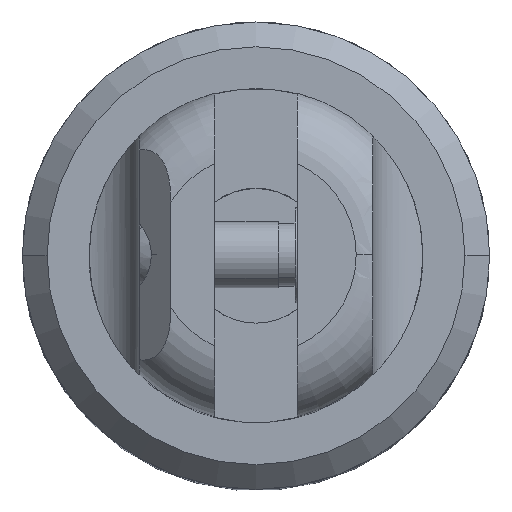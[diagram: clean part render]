
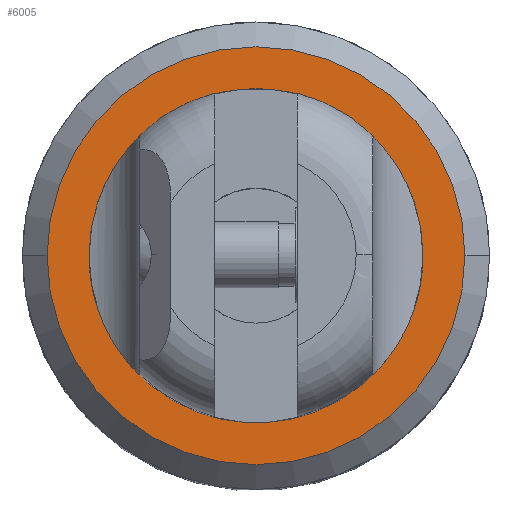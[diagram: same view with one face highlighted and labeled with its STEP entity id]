
A CAD part, top view. The second image highlights one B-rep face of the part: STEP entity #6005.
In plain terms, the highlighted planar face has unit normal (0, 0, 1).
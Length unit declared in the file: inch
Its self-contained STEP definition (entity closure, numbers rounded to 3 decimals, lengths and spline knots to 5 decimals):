
#958 = DIRECTION ( 'NONE',  ( 0., 0., 1. ) ) ;
#959 = CARTESIAN_POINT ( 'NONE',  ( 0., 0., 0.5 ) ) ;
#960 = AXIS2_PLACEMENT_3D ( 'NONE', #959, #958, #1037 ) ;
#961 = CIRCLE ( 'NONE', #960, 0.782 ) ;
#1035 = CARTESIAN_POINT ( 'NONE',  ( -0.782, 0., 0.5 ) ) ;
#1036 = CARTESIAN_POINT ( 'NONE',  ( 0.782, 0., 0.5 ) ) ;
#1037 = DIRECTION ( 'NONE',  ( 1., 0., 0. ) ) ;
#3232 = FACE_BOUND ( 'NONE', #5949, .T. ) ;
#3254 = DIRECTION ( 'NONE',  ( 1., 0., 0. ) ) ;
#3255 = DIRECTION ( 'NONE',  ( 0., 0., 1. ) ) ;
#3256 = CARTESIAN_POINT ( 'NONE',  ( 0., 0.875, 0.5 ) ) ;
#3257 = AXIS2_PLACEMENT_3D ( 'NONE', #3256, #3255, #3254 ) ;
#3258 = PLANE ( 'NONE',  #3257 ) ;
#3277 = FACE_OUTER_BOUND ( 'NONE', #6007, .T. ) ;
#3531 = AXIS2_PLACEMENT_3D ( 'NONE', #3590, #3589, #3588 ) ;
#3533 = CIRCLE ( 'NONE', #3531, 0.625 ) ;
#3588 = DIRECTION ( 'NONE',  ( 1., 0., 0. ) ) ;
#3589 = DIRECTION ( 'NONE',  ( 0., 0., 1. ) ) ;
#3590 = CARTESIAN_POINT ( 'NONE',  ( 0., 0., 0.5 ) ) ;
#3620 = DIRECTION ( 'NONE',  ( 0., 0., 1. ) ) ;
#3670 = DIRECTION ( 'NONE',  ( 1., 0., 0. ) ) ;
#3678 = CARTESIAN_POINT ( 'NONE',  ( 0., 0., 0.5 ) ) ;
#3687 = AXIS2_PLACEMENT_3D ( 'NONE', #3678, #3620, #3670 ) ;
#3758 = CIRCLE ( 'NONE', #3687, 0.782 ) ;
#5556 = EDGE_CURVE ( 'NONE', #5557, #5558, #961, .T. ) ;
#5557 = VERTEX_POINT ( 'NONE', #1036 ) ;
#5558 = VERTEX_POINT ( 'NONE', #1035 ) ;
#5788 = EDGE_CURVE ( 'NONE', #5802, #5803, #7899, .T. ) ;
#5802 = VERTEX_POINT ( 'NONE', #7903 ) ;
#5803 = VERTEX_POINT ( 'NONE', #7902 ) ;
#5945 = ORIENTED_EDGE ( 'NONE', *, *, #5556, .T. ) ;
#5949 = EDGE_LOOP ( 'NONE', ( #5950, #5951 ) ) ;
#5950 = ORIENTED_EDGE ( 'NONE', *, *, #5990, .F. ) ;
#5951 = ORIENTED_EDGE ( 'NONE', *, *, #5788, .F. ) ;
#5990 = EDGE_CURVE ( 'NONE', #5803, #5802, #3533, .T. ) ;
#6005 = ADVANCED_FACE ( 'NONE', ( #3277, #3232 ), #3258, .T. ) ;
#6006 = ORIENTED_EDGE ( 'NONE', *, *, #6018, .T. ) ;
#6007 = EDGE_LOOP ( 'NONE', ( #6006, #5945 ) ) ;
#6018 = EDGE_CURVE ( 'NONE', #5558, #5557, #3758, .T. ) ;
#7896 = DIRECTION ( 'NONE',  ( 0., 0., 1. ) ) ;
#7897 = CARTESIAN_POINT ( 'NONE',  ( 0., 0., 0.5 ) ) ;
#7898 = AXIS2_PLACEMENT_3D ( 'NONE', #7897, #7896, #7955 ) ;
#7899 = CIRCLE ( 'NONE', #7898, 0.625 ) ;
#7902 = CARTESIAN_POINT ( 'NONE',  ( -0.625, 0., 0.5 ) ) ;
#7903 = CARTESIAN_POINT ( 'NONE',  ( 0.625, 0., 0.5 ) ) ;
#7955 = DIRECTION ( 'NONE',  ( 1., 0., 0. ) ) ;
